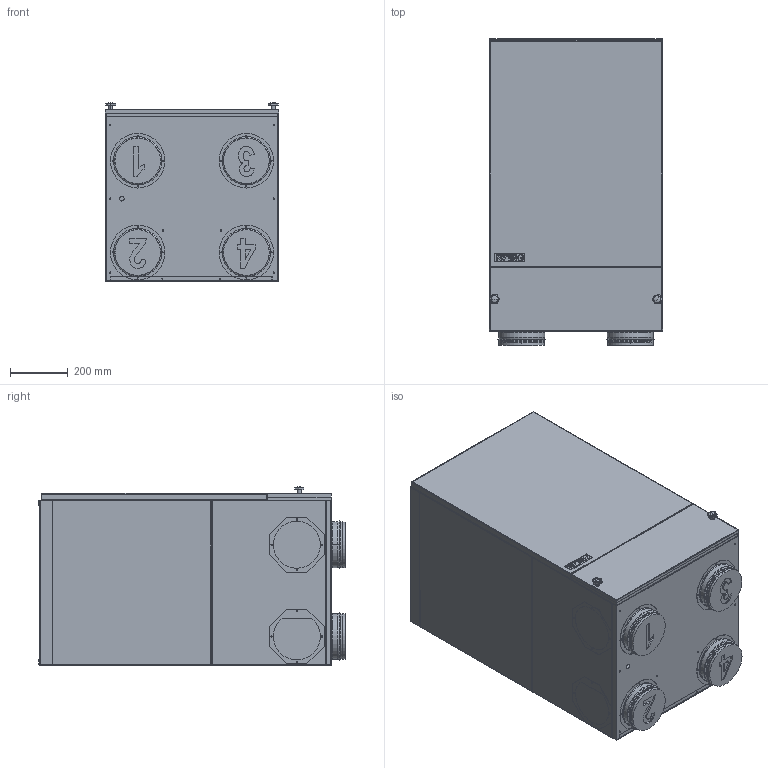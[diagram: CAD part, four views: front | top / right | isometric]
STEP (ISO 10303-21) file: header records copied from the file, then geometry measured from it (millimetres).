
FILE_DESCRIPTION (( 'STEP AP214' ), '1' );
FILE_NAME ('Combi_250_top.STEP', '2019-06-13T09:45:22', ( '' ), ( '' ), 'SwSTEP 2.0', 'SolidWorks 2019', '' );
FILE_SCHEMA (( 'AUTOMOTIVE_DESIGN' ));
Length unit declared in the file: millimetre
Products named in the file (20): Combi_250Ø160_dækplade_for_tegninger_Nr. 4; Combi_250_Polar_Top; Bagplade; Combi_250Compact-S_top_dækplade; Combi_250Compact-S_venstre_top_sideplade; CBSTa0010; Combi_250160mm_rørstuds; Combi_250_top; CBSTa0030; Combi_250Compact-S_toplåg; Combi_250Ø160_dækplade_for_tegninger_Nr. 1; Combi_250Ø160_dækplade_for_tegninger_Nr. 2; Combi_250Fingerskrue_sekskant_M6x40; Combi_250Compact-S_øverste_frontplade; Combi_250Compact-S_top_indvendig_bagplade; CBSTa0010_V; Combi_250Compact-S_højre_top_sideplade; Nilan_merkat; Combi_250Ø160_dækplade_for_tegninger_Nr. 3; CBSTa0040
Assembly tree (26 placements, depth 3):
  Combi_250_top
    Combi_250_Polar_Top
      CBSTa0030
      CBSTa0010
      CBSTa0010_V
    CBSTa0040
    Combi_250Compact-S_højre_top_sideplade
    Combi_250Compact-S_venstre_top_sideplade
    Combi_250Compact-S_øverste_frontplade
    Combi_250Compact-S_toplåg
    Combi_250Compact-S_top_dækplade  x4
    Combi_250Compact-S_top_indvendig_bagplade
    Bagplade
    Combi_250160mm_rørstuds  x4
    Combi_250Fingerskrue_sekskant_M6x40  x2
    Combi_250Ø160_dækplade_for_tegninger_Nr. 2
    Combi_250Ø160_dækplade_for_tegninger_Nr. 1
    Combi_250Ø160_dækplade_for_tegninger_Nr. 4
    Combi_250Ø160_dækplade_for_tegninger_Nr. 3
    Nilan_merkat
Bounding box: 602.1 x 1064.24 x 619.71 mm (x, y, z)
Volume: 4056482.1 mm3; surface area: 7543943.1 mm2
Topology: 25 solids, 29 shells, 1794 faces, 4465 edges, 2786 vertices
Faces by surface type: plane 873, cylinder 636, bspline 183, torus 74, cone 24, sphere 4
Entity records: 56389 total; most frequent: CARTESIAN_POINT 17407, ORIENTED_EDGE 7880, DIRECTION 7288, EDGE_CURVE 3940, VECTOR 2530, LINE 2530, VERTEX_POINT 2456, AXIS2_PLACEMENT_3D 2379
